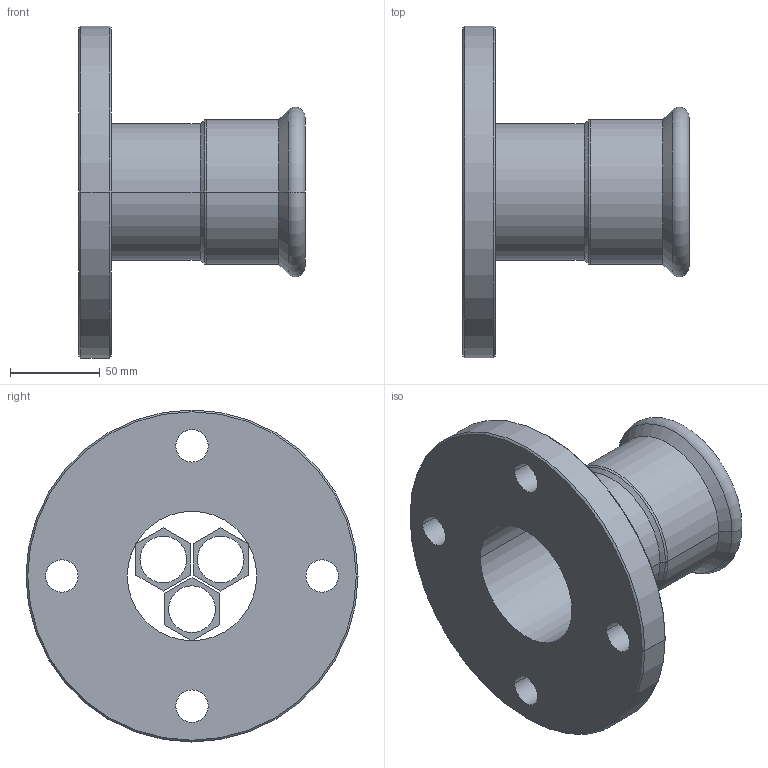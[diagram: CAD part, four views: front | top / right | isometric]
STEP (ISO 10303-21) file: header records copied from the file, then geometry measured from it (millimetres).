
FILE_DESCRIPTION(('OneSpaceDesigner STEP Export'),'2;1');
FILE_NAME('R2726 76.stp','2010-06-10T13:13:49',(''),(''),'OneSpace Designer STEP processor for AP214 (Solid Model)','OneSpace Modeling 15.00A 14-Mar-2007 (C) CoCreate Software GmbH','');
FILE_SCHEMA(('AUTOMOTIVE_DESIGN { 1 0 10303 214 1 1 1 1 }'));
Length unit declared in the file: millimetre
Products named in the file (2): R2726_76
Assembly tree (1 placements, depth 2):
  R2726_76
    R2726_76
Bounding box: 126 x 185 x 185 mm (x, y, z)
Volume: 465470.3 mm3; surface area: 120460.5 mm2
Topology: 1 solids, 1 shells, 73 faces, 182 edges, 117 vertices
Faces by surface type: plane 32, cylinder 29, cone 8, torus 4
Entity records: 1928 total; most frequent: ORIENTED_EDGE 364, CARTESIAN_POINT 306, DIRECTION 275, EDGE_CURVE 182, VERTEX_POINT 117, VECTOR 103, LINE 103, EDGE_LOOP 95
